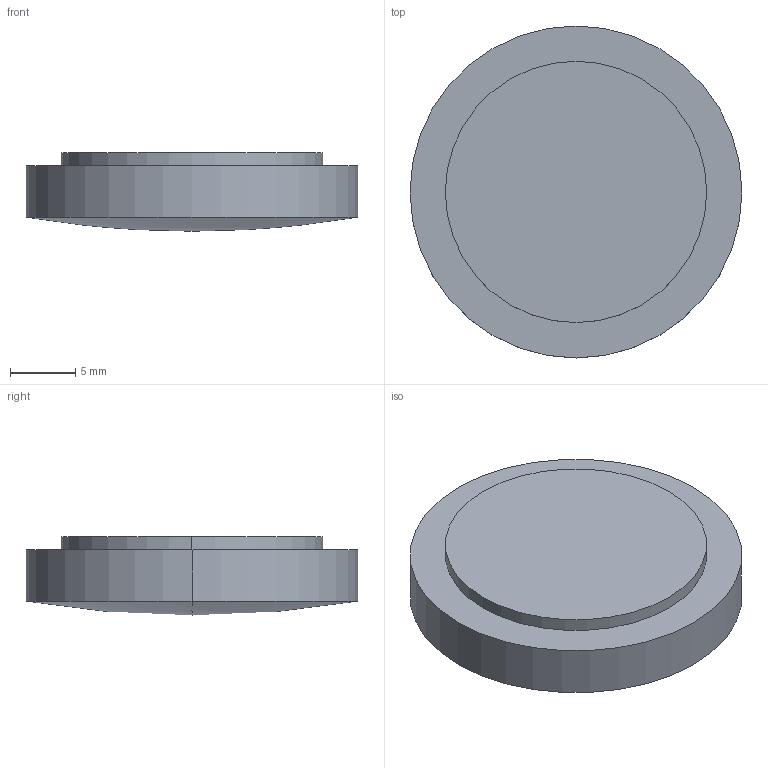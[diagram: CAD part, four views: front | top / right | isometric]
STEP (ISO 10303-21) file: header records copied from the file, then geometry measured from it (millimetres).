
FILE_DESCRIPTION(('STEP AP214'),'1');
FILE_NAME('LLF-25190.STEP','2020-03-09T17:41:25',(' '),(' '),'Spatial InterOp 3D',' ',' ');
FILE_SCHEMA(('AUTOMOTIVE_DESIGN { 1 0 10303 214 1 1 1 1 }'));
Length unit declared in the file: millimetre
Products named in the file (1): 1
Bounding box: 25.4 x 25.4 x 6 mm (x, y, z)
Volume: 2576.6 mm3; surface area: 2021.6 mm2
Topology: 2 solids, 2 shells, 9 faces, 16 edges, 9 vertices
Faces by surface type: cylinder 4, plane 3, sphere 2
Entity records: 229 total; most frequent: DIRECTION 46, CARTESIAN_POINT 34, ORIENTED_EDGE 28, AXIS2_PLACEMENT_3D 21, EDGE_CURVE 14, CIRCLE 10, ADVANCED_FACE 9, FACE_OUTER_BOUND 9
